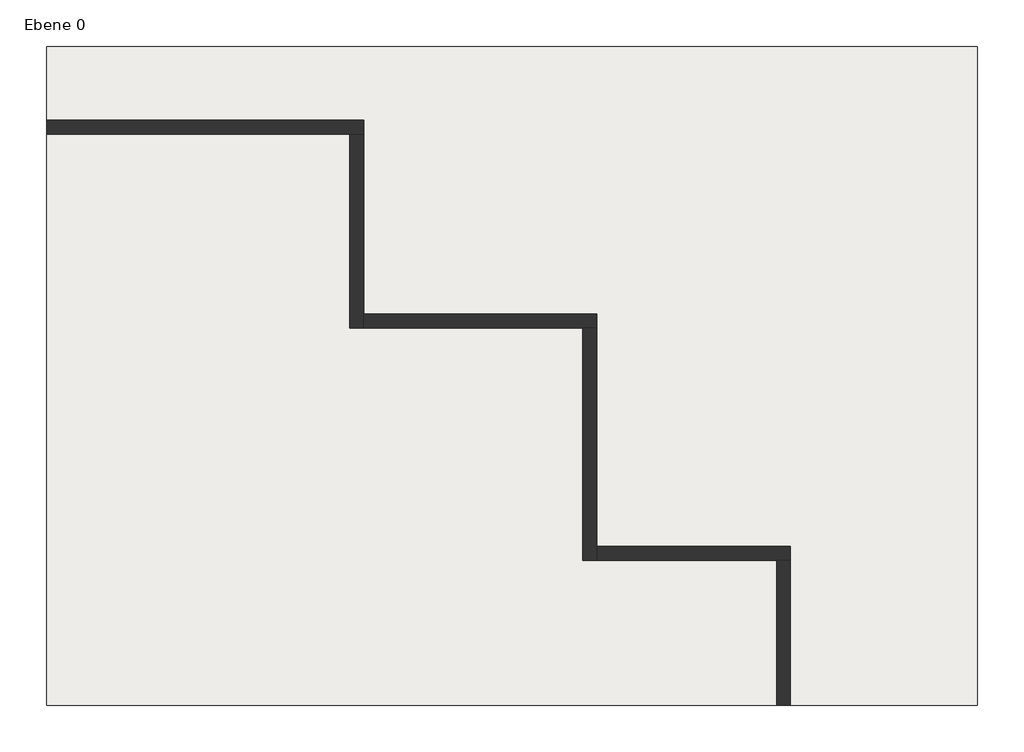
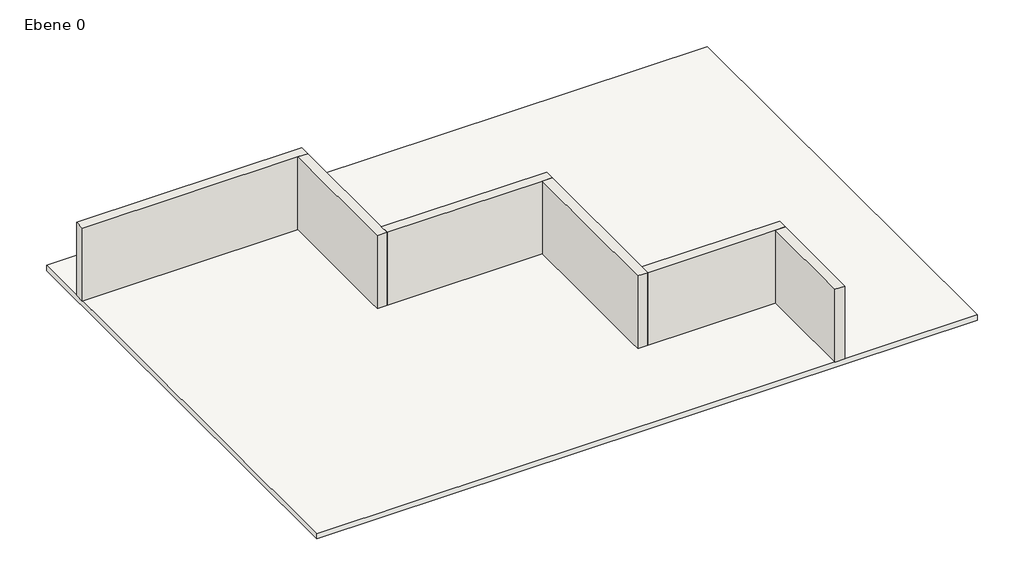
# One storey: 6 walls, 1 slab.
"""IFC4 building model written with IfcOpenShell, lengths in millimetres."""

from ifc_helpers import new_model, si_unit, frame, origin, origin_with_axes, place, context, project, spatial, polyline, outline, extrude, faceted_brep, element, save

model = new_model("IFC4")

# Units and contexts
model_context = context("Model", 3, world=origin())
ifc_project = project(units=[si_unit("LENGTHUNIT", "METRE", prefix="MILLI")], contexts=[model_context])

# Site, building, storey
site = spatial("IfcSite", under=ifc_project)
building = spatial("IfcBuilding", under=site)
storey = spatial("IfcBuildingStorey", under=building, Name="Ebene 0", Elevation=0.0)

# Slab
placement = place(None, origin())
element("IfcSlab", 1, ObjectType="STB 20.0", at=placement, inside=storey, context=model_context, shape_type="SweptSolid", body=[
    extrude(outline(polyline([(11887.0989468, 9457.1393302), (11887.0989468, -7542.8606698), (-12112.9010532, -7542.8606698), (-12112.9010532, 9457.1393302), (11887.0989468, 9457.1393302)])), frame((0.0, 0.0, -200.0), z_axis=(0.0, 0.0, 1.0), x_axis=(1.0, 0.0, 0.0)), (0.0, 0.0, 1.0), 200.0),
])

# Walls
element("IfcWall", 2, ObjectType="MW 24.0 WD 12.0", at=placement, inside=storey, context=model_context, shape_type="Brep", body=[
    faceted_brep([(-12112.9010532, 7198.3585903, 0.0), (-4292.9010532, 7198.3585903, 0.0), (-3932.9010532, 7198.3585903, 0.0), (-3932.9010532, 7198.3585903, 2800.0), (-4292.9010532, 7198.3585903, 2800.0), (-12112.9010532, 7198.3585903, 2800.0), (-12112.9010532, 7558.3585903, 0.0), (-12112.9010532, 7558.3585903, 2800.0), (-3932.9010532, 7558.3585903, 2800.0), (-3932.9010532, 7558.3585903, 0.0)], [[[0, 1, 2, 3, 4, 5]], [[6, 7, 8, 9]], [[2, 1, 0, 6, 9]], [[0, 5, 7, 6]], [[3, 2, 9, 8]], [[5, 4, 3, 8, 7]]]),
])
element("IfcWall", 3, ObjectType="MW 24.0 WD 12.0", at=placement, inside=storey, context=model_context, shape_type="Brep", body=[
    faceted_brep([(-4292.9010532, 7198.3585903, 0.0), (-4292.9010532, 2198.3585903, 0.0), (-4292.9010532, 2198.3585903, 2800.0), (-4292.9010532, 7198.3585903, 2800.0), (-3932.9010532, 7198.3585903, 0.0), (-3932.9010532, 7198.3585903, 2800.0), (-3932.9010532, 2558.3585903, 2800.0), (-3932.9010532, 2198.3585903, 2800.0), (-3932.9010532, 2198.3585903, 0.0), (-3932.9010532, 2558.3585903, 0.0)], [[[0, 1, 2, 3]], [[4, 5, 6, 7, 8, 9]], [[1, 0, 4, 9, 8]], [[0, 3, 5, 4]], [[2, 1, 8, 7]], [[3, 2, 7, 6, 5]]]),
])
element("IfcWall", 4, ObjectType="MW 24.0 WD 12.0", at=placement, inside=storey, context=model_context, shape_type="Brep", body=[
    faceted_brep([(-3932.9010532, 2198.3585903, 0.0), (1707.0989468, 2198.3585903, 0.0), (2067.0989468, 2198.3585903, 0.0), (2067.0989468, 2198.3585903, 2800.0), (1707.0989468, 2198.3585903, 2800.0), (-3932.9010532, 2198.3585903, 2800.0), (-3932.9010532, 2558.3585903, 0.0), (-3932.9010532, 2558.3585903, 2800.0), (2067.0989468, 2558.3585903, 2800.0), (2067.0989468, 2558.3585903, 0.0)], [[[0, 1, 2, 3, 4, 5]], [[6, 7, 8, 9]], [[2, 1, 0, 6, 9]], [[0, 5, 7, 6]], [[3, 2, 9, 8]], [[5, 4, 3, 8, 7]]]),
])
element("IfcWall", 5, ObjectType="MW 24.0 WD 12.0", at=placement, inside=storey, context=model_context, shape_type="Brep", body=[
    faceted_brep([(1707.0989468, 2198.3585903, 0.0), (1707.0989468, -3801.6414097, 0.0), (1707.0989468, -3801.6414097, 2800.0), (1707.0989468, 2198.3585903, 2800.0), (2067.0989468, 2198.3585903, 0.0), (2067.0989468, 2198.3585903, 2800.0), (2067.0989468, -3441.6414097, 2800.0), (2067.0989468, -3801.6414097, 2800.0), (2067.0989468, -3801.6414097, 0.0), (2067.0989468, -3441.6414097, 0.0)], [[[0, 1, 2, 3]], [[4, 5, 6, 7, 8, 9]], [[1, 0, 4, 9, 8]], [[0, 3, 5, 4]], [[2, 1, 8, 7]], [[3, 2, 7, 6, 5]]]),
])
element("IfcWall", 6, ObjectType="MW 24.0 WD 12.0", at=placement, inside=storey, context=model_context, shape_type="Brep", body=[
    faceted_brep([(2067.0989468, -3801.6414097, 0.0), (6707.0989468, -3801.6414097, 0.0), (7067.0989468, -3801.6414097, 0.0), (7067.0989468, -3801.6414097, 2800.0), (6707.0989468, -3801.6414097, 2800.0), (2067.0989468, -3801.6414097, 2800.0), (2067.0989468, -3441.6414097, 0.0), (2067.0989468, -3441.6414097, 2800.0), (7067.0989468, -3441.6414097, 2800.0), (7067.0989468, -3441.6414097, 0.0)], [[[0, 1, 2, 3, 4, 5]], [[6, 7, 8, 9]], [[2, 1, 0, 6, 9]], [[0, 5, 7, 6]], [[3, 2, 9, 8]], [[5, 4, 3, 8, 7]]]),
])
element("IfcWall", 7, ObjectType="MW 24.0 WD 12.0", at=placement, inside=storey, context=model_context, shape_type="SweptSolid", body=[
    extrude(outline(polyline([(6707.0989468, -7542.8606698), (6707.0989468, -3801.6414097), (7067.0989468, -3801.6414097), (7067.0989468, -7542.8606698), (6707.0989468, -7542.8606698)])), origin_with_axes(), (0.0, 0.0, 1.0), 2800.0),
])

save(model, "model.ifc")
